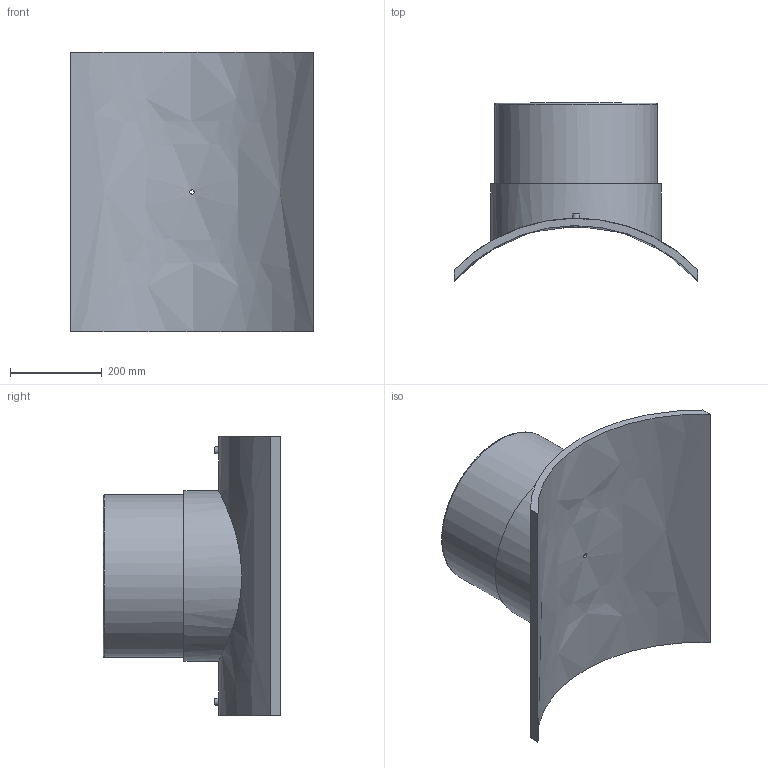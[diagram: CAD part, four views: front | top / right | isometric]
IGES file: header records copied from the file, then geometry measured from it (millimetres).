
Global section: file name: 495803710355T; native system: Autodesk Inventor 2019; preprocessor: unknown; author: KIM; date: 20240404.115643; units: millimetre
Bounding box: 532 x 387.91 x 610 mm (x, y, z)
Volume: 16469859.6 mm3; surface area: 1335034.2 mm2
Topology: 1 solids, 1 shells, 29 faces, 60 edges, 43 vertices
Faces by surface type: bspline 29
